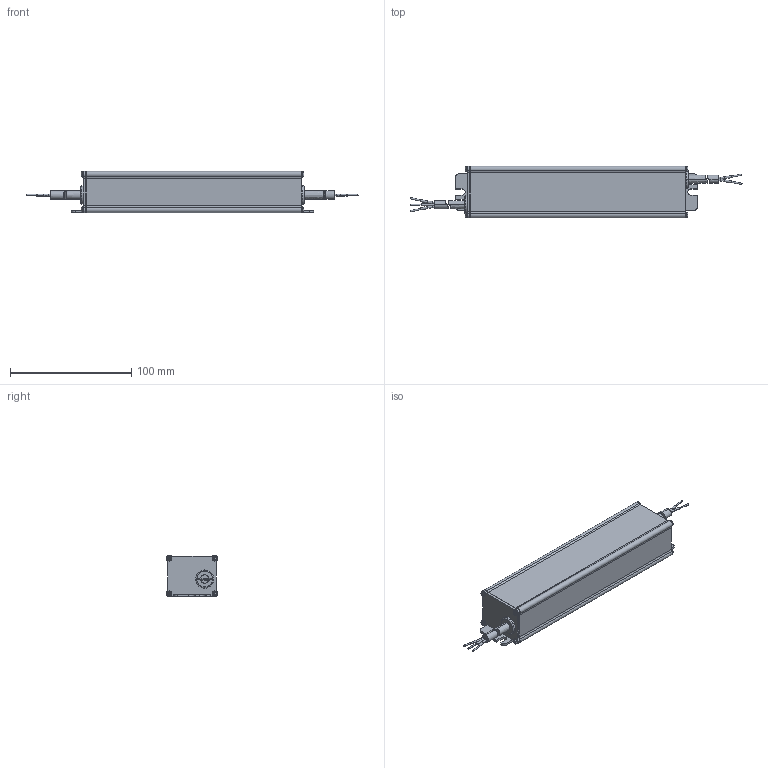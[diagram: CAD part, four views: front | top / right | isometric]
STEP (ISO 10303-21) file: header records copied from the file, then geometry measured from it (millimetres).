
FILE_DESCRIPTION((''),'2;1');
FILE_NAME('15013746Z_199X34X42-5','2020-01-21T13:20:31',('emanuel.wild'),(''),'CREO PARAMETRIC BY PTC INC, 2019164','CREO PARAMETRIC BY PTC INC, 2019164','');
FILE_SCHEMA(('CONFIG_CONTROL_DESIGN'));
Length unit declared in the file: millimetre
Products named in the file (1): 15013746Z_199X34X42-5
Bounding box: 273.49 x 42.5 x 34 mm (x, y, z)
Surface area: 64728.2 mm2 (no closed solid volume)
Topology: 0 solids, 4 shells, 567 faces, 1442 edges, 928 vertices
Faces by surface type: revolution 318, bspline 249
Entity records: 34158 total; most frequent: CARTESIAN_POINT 21891, ORIENTED_EDGE 2850, DIRECTION 1574, EDGE_CURVE 1442, VERTEX_POINT 928, VECTOR 680, LINE 680, EDGE_LOOP 622
